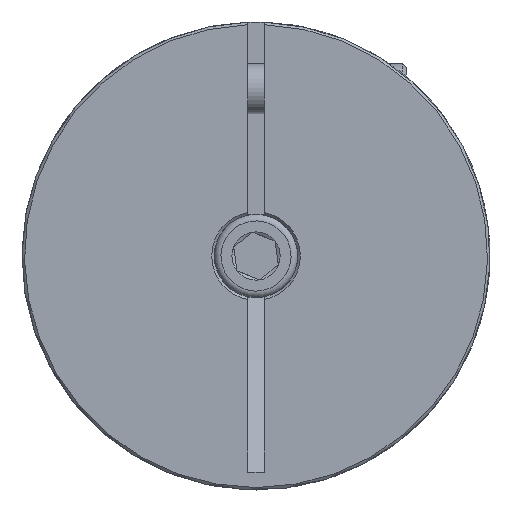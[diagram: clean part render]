
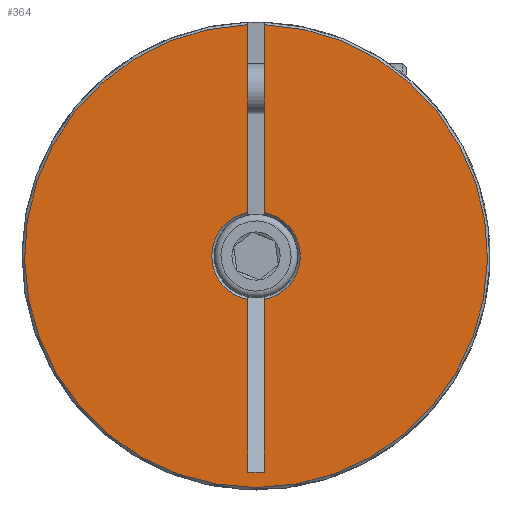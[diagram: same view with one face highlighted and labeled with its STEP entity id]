
A CAD part, left-side view. The second image highlights one B-rep face of the part: STEP entity #364.
In plain terms, the highlighted planar face has unit normal (-1, 0, 0) as drawn and (0, 0, 1) by its records, which use the part's own axes.
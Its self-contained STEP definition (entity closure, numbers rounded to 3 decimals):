
#364 = ADVANCED_FACE( 'NONE', ( #775 ), #776, .T. );
#775 = FACE_OUTER_BOUND( '', #1229, .T. );
#776 = PLANE( '', #1230 );
#1229 = EDGE_LOOP( '', ( #1866, #1867, #1868, #1869, #1870, #1871, #1872, #1873 ) );
#1230 = AXIS2_PLACEMENT_3D( '', #1874, #1875, #1876 );
#1866 = ORIENTED_EDGE( '', *, *, #2369, .F. );
#1867 = ORIENTED_EDGE( '', *, *, #2313, .T. );
#1868 = ORIENTED_EDGE( '', *, *, #2169, .T. );
#1869 = ORIENTED_EDGE( '', *, *, #2370, .T. );
#1870 = ORIENTED_EDGE( '', *, *, #2219, .T. );
#1871 = ORIENTED_EDGE( '', *, *, #2371, .F. );
#1872 = ORIENTED_EDGE( '', *, *, #2372, .F. );
#1873 = ORIENTED_EDGE( '', *, *, #2373, .T. );
#1874 = CARTESIAN_POINT( '', ( 0., 0., 24.5 ) );
#1875 = DIRECTION( '', ( 0., 0., 1. ) );
#1876 = DIRECTION( '', ( 1., 0., 0. ) );
#2169 = EDGE_CURVE( 'NONE', #2448, #2449, #2450, .T. );
#2219 = EDGE_CURVE( 'NONE', #2532, #2533, #2534, .T. );
#2313 = EDGE_CURVE( 'NONE', #2671, #2448, #2672, .T. );
#2369 = EDGE_CURVE( 'NONE', #2671, #2751, #2752, .F. );
#2370 = EDGE_CURVE( 'NONE', #2449, #2532, #2753, .F. );
#2371 = EDGE_CURVE( 'NONE', #2754, #2533, #2755, .F. );
#2372 = EDGE_CURVE( 'NONE', #2756, #2754, #2757, .F. );
#2373 = EDGE_CURVE( 'NONE', #2756, #2751, #2758, .F. );
#2448 = VERTEX_POINT( 'NONE', #2839 );
#2449 = VERTEX_POINT( 'NONE', #2840 );
#2450 = LINE( '', #2841, #2842 );
#2532 = VERTEX_POINT( 'NONE', #2943 );
#2533 = VERTEX_POINT( 'NONE', #2944 );
#2534 = LINE( '', #2945, #2946 );
#2671 = VERTEX_POINT( 'NONE', #3255 );
#2672 = CIRCLE( '', #3256, 27.7 );
#2751 = VERTEX_POINT( 'NONE', #3363 );
#2752 = LINE( '', #3364, #3365 );
#2753 = CIRCLE( '', #3366, 5.3 );
#2754 = VERTEX_POINT( 'NONE', #3367 );
#2755 = LINE( '', #3368, #3369 );
#2756 = VERTEX_POINT( 'NONE', #3370 );
#2757 = LINE( '', #3371, #3372 );
#2758 = CIRCLE( '', #3373, 5.3 );
#2839 = CARTESIAN_POINT( '', ( 27.682, -1., 24.5 ) );
#2840 = CARTESIAN_POINT( '', ( 5.205, -1., 24.5 ) );
#2841 = CARTESIAN_POINT( '', ( 0., -1., 24.5 ) );
#2842 = VECTOR( '', #3470, 1000. );
#2943 = CARTESIAN_POINT( '', ( -5.205, -1., 24.5 ) );
#2944 = CARTESIAN_POINT( '', ( -25.849, -1., 24.5 ) );
#2945 = CARTESIAN_POINT( '', ( 0., -1., 24.5 ) );
#2946 = VECTOR( '', #3552, 1000. );
#3255 = CARTESIAN_POINT( '', ( 27.682, 1., 24.5 ) );
#3256 = AXIS2_PLACEMENT_3D( '', #3687, #3688, #3689 );
#3363 = CARTESIAN_POINT( '', ( 5.205, 1., 24.5 ) );
#3364 = CARTESIAN_POINT( '', ( 17., 1., 24.5 ) );
#3365 = VECTOR( '', #3759, 1000. );
#3366 = AXIS2_PLACEMENT_3D( '', #3760, #3761, #3762 );
#3367 = CARTESIAN_POINT( '', ( -25.849, 1., 24.5 ) );
#3368 = CARTESIAN_POINT( '', ( -25.849, -1., 24.5 ) );
#3369 = VECTOR( '', #3763, 1000. );
#3370 = CARTESIAN_POINT( '', ( -5.205, 1., 24.5 ) );
#3371 = CARTESIAN_POINT( '', ( 17., 1., 24.5 ) );
#3372 = VECTOR( '', #3764, 1000. );
#3373 = AXIS2_PLACEMENT_3D( '', #3765, #3766, #3767 );
#3470 = DIRECTION( '', ( -1., 0., 0. ) );
#3552 = DIRECTION( '', ( -1., 0., 0. ) );
#3687 = CARTESIAN_POINT( '', ( 0., 0., 24.5 ) );
#3688 = DIRECTION( '', ( 0., 0., 1. ) );
#3689 = DIRECTION( '', ( 1., 0., 0. ) );
#3759 = DIRECTION( '', ( 1., 0., 0. ) );
#3760 = CARTESIAN_POINT( '', ( 0., 0., 24.5 ) );
#3761 = DIRECTION( '', ( 0., 0., 1. ) );
#3762 = DIRECTION( '', ( 1., 0., 0. ) );
#3763 = DIRECTION( '', ( 0., 1., 0. ) );
#3764 = DIRECTION( '', ( 1., 0., 0. ) );
#3765 = CARTESIAN_POINT( '', ( 0., 0., 24.5 ) );
#3766 = DIRECTION( '', ( 0., 0., 1. ) );
#3767 = DIRECTION( '', ( 1., 0., 0. ) );
